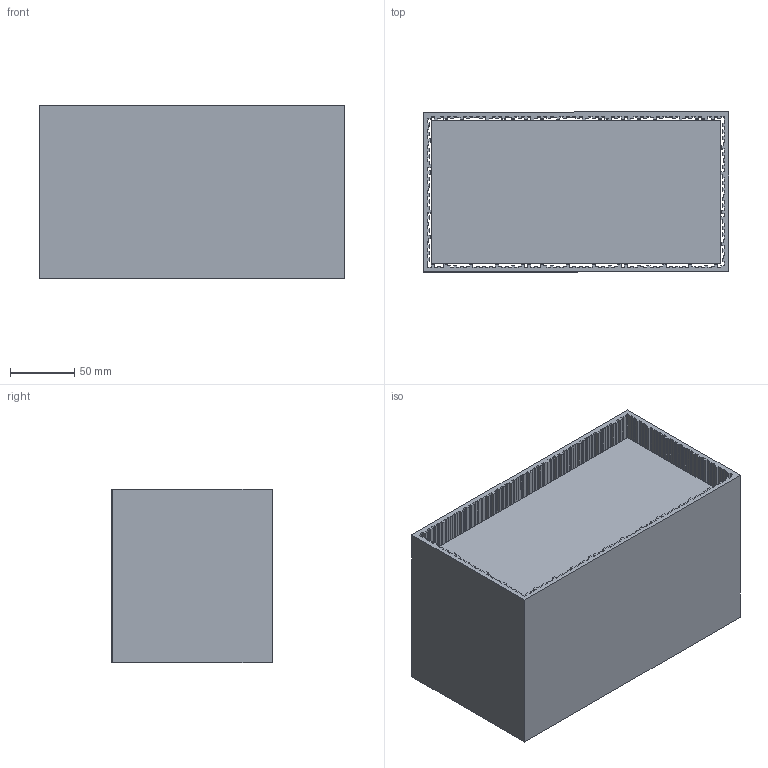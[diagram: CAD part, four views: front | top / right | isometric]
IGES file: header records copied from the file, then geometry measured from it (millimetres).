
Start section: SolidWorks IGES file using analytic representation for surfaces
Global section: file name: X:\PRODUKT\Modele 3D_WWW\_KOLEKCJE WWW\GROOVE-II-9383-9316\9316\GROOVE-II-9316.STL.IGS; native system: SolidWorks 2021; preprocessor: SolidWorks 2021; author: gabriela.tworek; date: 220713.135503; units: millimetre
Bounding box: 237 x 124.43 x 135 mm (x, y, z)
Surface area: 294991.6 mm2 (no closed solid volume)
Topology: 0 solids, 0 shells, 556 faces, 3312 edges, 3312 vertices
Faces by surface type: bspline 556
